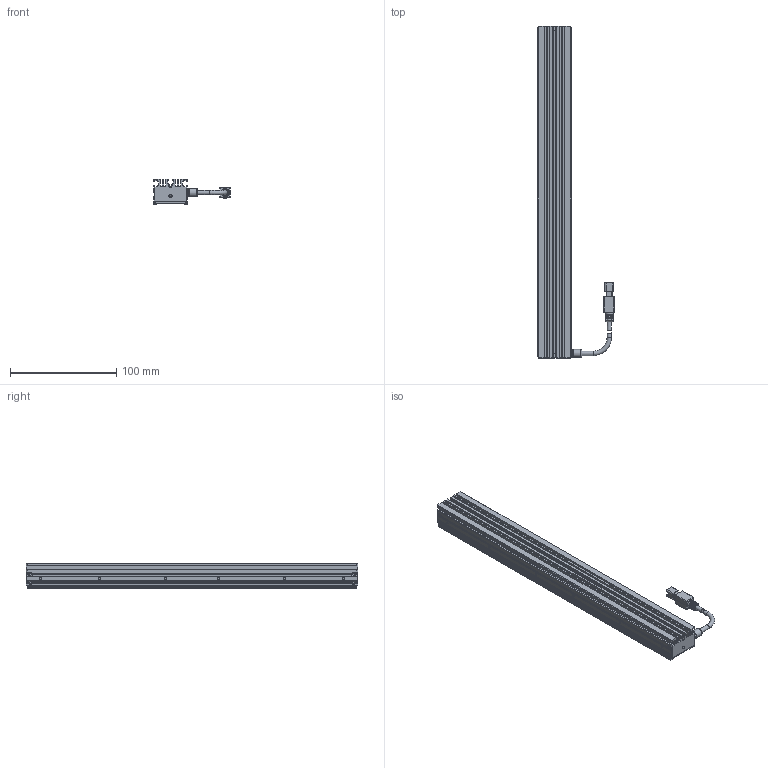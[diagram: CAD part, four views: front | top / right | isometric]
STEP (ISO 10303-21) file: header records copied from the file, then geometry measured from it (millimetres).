
FILE_DESCRIPTION (( 'STEP AP203' ), '1' );
FILE_NAME ('OPT-ILI31332-IR-V1.0U尨砩芞.STEP', '2025-01-18T08:40:46', ( '' ), ( '' ), 'SwSTEP 2.0', 'SolidWorks 2016', '' );
FILE_SCHEMA (( 'CONFIG_CONTROL_DESIGN' ));
Length unit declared in the file: millimetre
Products named in the file (1): OPT-ILI31332-IR-V1.0U尨砩芞
Bounding box: 72.6 x 313 x 24 mm (x, y, z)
Volume: 189376.6 mm3; surface area: 79117.4 mm2
Topology: 5 solids, 15 shells, 646 faces, 1660 edges, 1067 vertices
Faces by surface type: plane 443, cylinder 144, cone 30, bspline 20, torus 9
Full cylindrical faces by diameter (mm): 1.1 x2, 1.4 x4, 1.6 x7, 1.8 x2, 2 x19, 2.4 x7, 2.5 x2, 2.6 x2, 3 x2, 3.5 x1, 4.1 x3, 7.5 x2, 8 x1
Entity records: 19548 total; most frequent: CARTESIAN_POINT 4418, ORIENTED_EDGE 3084, DIRECTION 2999, EDGE_CURVE 1542, LINE 1067, VECTOR 1067, VERTEX_POINT 1035, AXIS2_PLACEMENT_3D 966
